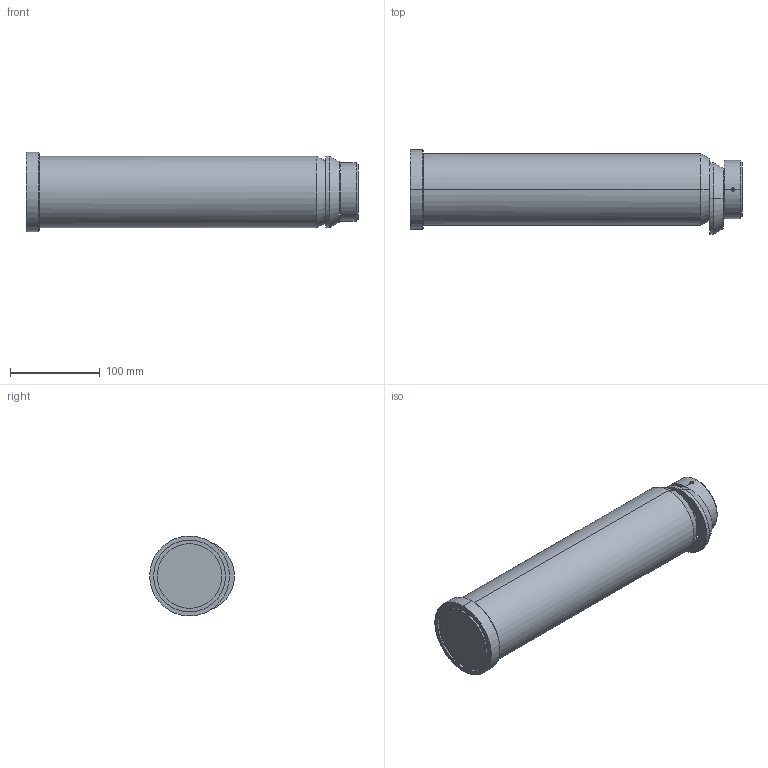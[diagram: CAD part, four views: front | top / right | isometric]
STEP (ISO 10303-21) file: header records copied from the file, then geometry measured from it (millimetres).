
FILE_DESCRIPTION(('CATIA V5 STEP Exchange'),'2;1');
FILE_NAME('C:\Users\Raffaele\Desktop\3D X SITO CF\PERNI -STAFFE SOLLEVAMENTO\395X\GSB_OILLESS_C10303080320\STEP-2.03\395X-080-320.stp','2019-07-03T13:32:46+00:00',('none'),('none'),'CATIA Version 5 Release 20 GA (IN-10)','CATIA V5 STEP AP203','none');
FILE_SCHEMA(('CONFIG_CONTROL_DESIGN'));
Length unit declared in the file: millimetre
Products named in the file (1): 395X-080-320
Assembly tree (3 placements, depth 2):
  395X-080-320
    #58
    #879
    #1244
Bounding box: 370 x 94.5 x 89 mm (x, y, z)
Volume: 1799645.1 mm3; surface area: 121607 mm2
Topology: 3 solids, 3 shells, 42 faces, 140 edges, 104 vertices
Faces by surface type: cylinder 22, plane 10, cone 10
Entity records: 2005 total; most frequent: CARTESIAN_POINT 687, ORIENTED_EDGE 280, DIRECTION 210, EDGE_CURVE 140, AXIS2_PLACEMENT_3D 126, VERTEX_POINT 104, CIRCLE 78, EDGE_LOOP 50
